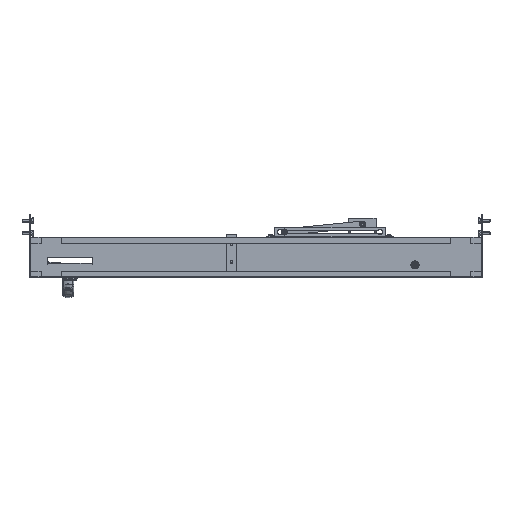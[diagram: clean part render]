
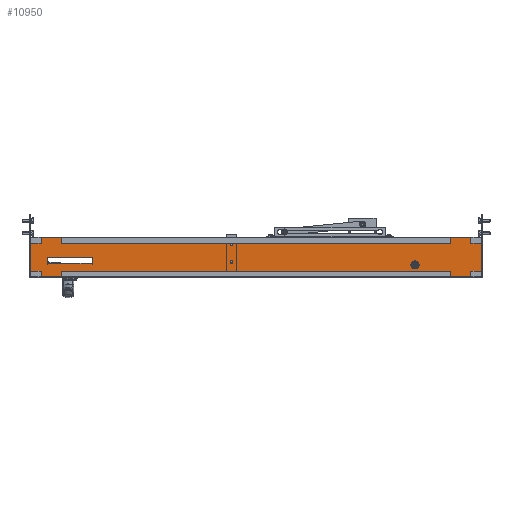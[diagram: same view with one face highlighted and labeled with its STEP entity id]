
A CAD part, front view. The second image highlights one B-rep face of the part: STEP entity #10950.
In plain terms, the highlighted planar face has unit normal (0, -1, 0).
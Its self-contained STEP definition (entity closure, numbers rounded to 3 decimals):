
#9122 = VERTEX_POINT('',#9123);
#9123 = CARTESIAN_POINT('',(-48.5,-1.5,-6.9));
#9141 = VERTEX_POINT('',#9142);
#9142 = CARTESIAN_POINT('',(-48.5,-1.5,-11.1));
#9148 = EDGE_CURVE('',#9122,#9141,#9149,.T.);
#9149 = CIRCLE('',#9150,2.1);
#9150 = AXIS2_PLACEMENT_3D('',#9151,#9152,#9153);
#9151 = CARTESIAN_POINT('',(-48.5,-1.5,-9.));
#9152 = DIRECTION('',(0.,-1.,0.));
#9153 = DIRECTION('',(0.,0.,-1.));
#9164 = VERTEX_POINT('',#9165);
#9165 = CARTESIAN_POINT('',(-48.5,-1.5,28.1));
#9183 = VERTEX_POINT('',#9184);
#9184 = CARTESIAN_POINT('',(-48.5,-1.5,23.9));
#9190 = EDGE_CURVE('',#9164,#9183,#9191,.T.);
#9191 = CIRCLE('',#9192,2.1);
#9192 = AXIS2_PLACEMENT_3D('',#9193,#9194,#9195);
#9193 = CARTESIAN_POINT('',(-48.5,-1.5,26.));
#9194 = DIRECTION('',(0.,-1.,0.));
#9195 = DIRECTION('',(0.,0.,-1.));
#9206 = VERTEX_POINT('',#9207);
#9207 = CARTESIAN_POINT('',(-324.,-1.5,-13.6));
#9215 = EDGE_CURVE('',#9206,#9216,#9218,.T.);
#9216 = VERTEX_POINT('',#9217);
#9217 = CARTESIAN_POINT('',(-323.5,-1.5,-13.6));
#9218 = LINE('',#9219,#9220);
#9219 = CARTESIAN_POINT('',(0.,-1.5,-13.6));
#9220 = VECTOR('',#9221,1.);
#9221 = DIRECTION('',(1.,0.,0.));
#10512 = VERTEX_POINT('',#10513);
#10513 = CARTESIAN_POINT('',(446.4,-1.5,-38.5));
#10519 = EDGE_CURVE('',#10520,#10512,#10522,.T.);
#10520 = VERTEX_POINT('',#10521);
#10521 = CARTESIAN_POINT('',(-446.4,-1.5,-38.5));
#10522 = LINE('',#10523,#10524);
#10523 = CARTESIAN_POINT('',(0.,-1.5,-38.5));
#10524 = VECTOR('',#10525,1.);
#10525 = DIRECTION('',(1.,0.,0.));
#10768 = VERTEX_POINT('',#10769);
#10769 = CARTESIAN_POINT('',(-446.4,-1.5,38.5));
#10775 = EDGE_CURVE('',#10776,#10768,#10778,.T.);
#10776 = VERTEX_POINT('',#10777);
#10777 = CARTESIAN_POINT('',(446.4,-1.5,38.5));
#10778 = LINE('',#10779,#10780);
#10779 = CARTESIAN_POINT('',(0.,-1.5,38.5));
#10780 = VECTOR('',#10781,1.);
#10781 = DIRECTION('',(-1.,0.,0.));
#10867 = EDGE_CURVE('',#10868,#10870,#10872,.T.);
#10868 = VERTEX_POINT('',#10869);
#10869 = CARTESIAN_POINT('',(-446.4,-1.5,-37.9));
#10870 = VERTEX_POINT('',#10871);
#10871 = CARTESIAN_POINT('',(-447.,-1.5,-37.9));
#10872 = LINE('',#10873,#10874);
#10873 = CARTESIAN_POINT('',(0.,-1.5,-37.9));
#10874 = VECTOR('',#10875,1.);
#10875 = DIRECTION('',(-1.,-0.,0.));
#10950 = ADVANCED_FACE('',(#10951,#10961,#10971,#11021,#11078),#11149,
  .T.);
#10951 = FACE_BOUND('',#10952,.T.);
#10952 = EDGE_LOOP('',(#10953,#10954));
#10953 = ORIENTED_EDGE('',*,*,#9148,.F.);
#10954 = ORIENTED_EDGE('',*,*,#10955,.F.);
#10955 = EDGE_CURVE('',#9141,#9122,#10956,.T.);
#10956 = CIRCLE('',#10957,2.1);
#10957 = AXIS2_PLACEMENT_3D('',#10958,#10959,#10960);
#10958 = CARTESIAN_POINT('',(-48.5,-1.5,-9.));
#10959 = DIRECTION('',(0.,-1.,0.));
#10960 = DIRECTION('',(0.,0.,-1.));
#10961 = FACE_BOUND('',#10962,.T.);
#10962 = EDGE_LOOP('',(#10963,#10964));
#10963 = ORIENTED_EDGE('',*,*,#9190,.F.);
#10964 = ORIENTED_EDGE('',*,*,#10965,.F.);
#10965 = EDGE_CURVE('',#9183,#9164,#10966,.T.);
#10966 = CIRCLE('',#10967,2.1);
#10967 = AXIS2_PLACEMENT_3D('',#10968,#10969,#10970);
#10968 = CARTESIAN_POINT('',(-48.5,-1.5,26.));
#10969 = DIRECTION('',(0.,-1.,0.));
#10970 = DIRECTION('',(0.,0.,-1.));
#10971 = FACE_BOUND('',#10972,.T.);
#10972 = EDGE_LOOP('',(#10973,#10983,#10991,#10999,#11007,#11015));
#10973 = ORIENTED_EDGE('',*,*,#10974,.F.);
#10974 = EDGE_CURVE('',#10975,#10977,#10979,.T.);
#10975 = VERTEX_POINT('',#10976);
#10976 = CARTESIAN_POINT('',(317.82,-1.5,-9.25));
#10977 = VERTEX_POINT('',#10978);
#10978 = CARTESIAN_POINT('',(311.18,-1.5,-9.25));
#10979 = LINE('',#10980,#10981);
#10980 = CARTESIAN_POINT('',(0.,-1.5,-9.25));
#10981 = VECTOR('',#10982,1.);
#10982 = DIRECTION('',(-1.,0.,0.));
#10983 = ORIENTED_EDGE('',*,*,#10984,.F.);
#10984 = EDGE_CURVE('',#10985,#10975,#10987,.T.);
#10985 = VERTEX_POINT('',#10986);
#10986 = CARTESIAN_POINT('',(321.14,-1.5,-15.));
#10987 = LINE('',#10988,#10989);
#10988 = CARTESIAN_POINT('',(234.359,-1.5,135.307));
#10989 = VECTOR('',#10990,1.);
#10990 = DIRECTION('',(-0.5,0.,0.866));
#10991 = ORIENTED_EDGE('',*,*,#10992,.F.);
#10992 = EDGE_CURVE('',#10993,#10985,#10995,.T.);
#10993 = VERTEX_POINT('',#10994);
#10994 = CARTESIAN_POINT('',(317.82,-1.5,-20.75));
#10995 = LINE('',#10996,#10997);
#10996 = CARTESIAN_POINT('',(247.35,-1.5,-142.807));
#10997 = VECTOR('',#10998,1.);
#10998 = DIRECTION('',(0.5,0.,0.866));
#10999 = ORIENTED_EDGE('',*,*,#11000,.F.);
#11000 = EDGE_CURVE('',#11001,#10993,#11003,.T.);
#11001 = VERTEX_POINT('',#11002);
#11002 = CARTESIAN_POINT('',(311.18,-1.5,-20.75));
#11003 = LINE('',#11004,#11005);
#11004 = CARTESIAN_POINT('',(0.,-1.5,-20.75));
#11005 = VECTOR('',#11006,1.);
#11006 = DIRECTION('',(1.,0.,0.));
#11007 = ORIENTED_EDGE('',*,*,#11008,.F.);
#11008 = EDGE_CURVE('',#11009,#11001,#11011,.T.);
#11009 = VERTEX_POINT('',#11010);
#11010 = CARTESIAN_POINT('',(307.86,-1.5,-15.));
#11011 = LINE('',#11012,#11013);
#11012 = CARTESIAN_POINT('',(224.4,-1.5,129.557));
#11013 = VECTOR('',#11014,1.);
#11014 = DIRECTION('',(0.5,0.,-0.866));
#11015 = ORIENTED_EDGE('',*,*,#11016,.F.);
#11016 = EDGE_CURVE('',#10977,#11009,#11017,.T.);
#11017 = LINE('',#11018,#11019);
#11018 = CARTESIAN_POINT('',(237.391,-1.5,-137.057));
#11019 = VECTOR('',#11020,1.);
#11020 = DIRECTION('',(-0.5,0.,-0.866));
#11021 = FACE_BOUND('',#11022,.T.);
#11022 = EDGE_LOOP('',(#11023,#11033,#11041,#11047,#11048,#11056,#11064,
    #11072));
#11023 = ORIENTED_EDGE('',*,*,#11024,.F.);
#11024 = EDGE_CURVE('',#11025,#11027,#11029,.T.);
#11025 = VERTEX_POINT('',#11026);
#11026 = CARTESIAN_POINT('',(-413.5,-1.5,0.4));
#11027 = VERTEX_POINT('',#11028);
#11028 = CARTESIAN_POINT('',(-413.5,-1.5,-13.6));
#11029 = LINE('',#11030,#11031);
#11030 = CARTESIAN_POINT('',(-413.5,-1.5,0.));
#11031 = VECTOR('',#11032,1.);
#11032 = DIRECTION('',(0.,0.,-1.));
#11033 = ORIENTED_EDGE('',*,*,#11034,.F.);
#11034 = EDGE_CURVE('',#11035,#11025,#11037,.T.);
#11035 = VERTEX_POINT('',#11036);
#11036 = CARTESIAN_POINT('',(-323.5,-1.5,0.4));
#11037 = LINE('',#11038,#11039);
#11038 = CARTESIAN_POINT('',(0.,-1.5,0.4));
#11039 = VECTOR('',#11040,1.);
#11040 = DIRECTION('',(-1.,0.,0.));
#11041 = ORIENTED_EDGE('',*,*,#11042,.F.);
#11042 = EDGE_CURVE('',#9216,#11035,#11043,.T.);
#11043 = LINE('',#11044,#11045);
#11044 = CARTESIAN_POINT('',(-323.5,-1.5,0.));
#11045 = VECTOR('',#11046,1.);
#11046 = DIRECTION('',(0.,0.,1.));
#11047 = ORIENTED_EDGE('',*,*,#9215,.F.);
#11048 = ORIENTED_EDGE('',*,*,#11049,.T.);
#11049 = EDGE_CURVE('',#9206,#11050,#11052,.T.);
#11050 = VERTEX_POINT('',#11051);
#11051 = CARTESIAN_POINT('',(-324.,-1.5,-13.));
#11052 = LINE('',#11053,#11054);
#11053 = CARTESIAN_POINT('',(-324.,-1.5,-13.6));
#11054 = VECTOR('',#11055,1.);
#11055 = DIRECTION('',(-0.,-0.,1.));
#11056 = ORIENTED_EDGE('',*,*,#11057,.T.);
#11057 = EDGE_CURVE('',#11050,#11058,#11060,.T.);
#11058 = VERTEX_POINT('',#11059);
#11059 = CARTESIAN_POINT('',(-413.,-1.5,-13.));
#11060 = LINE('',#11061,#11062);
#11061 = CARTESIAN_POINT('',(0.,-1.5,-13.));
#11062 = VECTOR('',#11063,1.);
#11063 = DIRECTION('',(-1.,-0.,0.));
#11064 = ORIENTED_EDGE('',*,*,#11065,.F.);
#11065 = EDGE_CURVE('',#11066,#11058,#11068,.T.);
#11066 = VERTEX_POINT('',#11067);
#11067 = CARTESIAN_POINT('',(-413.,-1.5,-13.6));
#11068 = LINE('',#11069,#11070);
#11069 = CARTESIAN_POINT('',(-413.,-1.5,0.));
#11070 = VECTOR('',#11071,1.);
#11071 = DIRECTION('',(-0.,0.,1.));
#11072 = ORIENTED_EDGE('',*,*,#11073,.F.);
#11073 = EDGE_CURVE('',#11027,#11066,#11074,.T.);
#11074 = LINE('',#11075,#11076);
#11075 = CARTESIAN_POINT('',(0.,-1.5,-13.6));
#11076 = VECTOR('',#11077,1.);
#11077 = DIRECTION('',(1.,0.,0.));
#11078 = FACE_BOUND('',#11079,.T.);
#11079 = EDGE_LOOP('',(#11080,#11090,#11096,#11097,#11105,#11113,#11119,
    #11120,#11126,#11127,#11135,#11143));
#11080 = ORIENTED_EDGE('',*,*,#11081,.F.);
#11081 = EDGE_CURVE('',#11082,#11084,#11086,.T.);
#11082 = VERTEX_POINT('',#11083);
#11083 = CARTESIAN_POINT('',(446.4,-1.5,37.9));
#11084 = VERTEX_POINT('',#11085);
#11085 = CARTESIAN_POINT('',(447.,-1.5,37.9));
#11086 = LINE('',#11087,#11088);
#11087 = CARTESIAN_POINT('',(0.,-1.5,37.9));
#11088 = VECTOR('',#11089,1.);
#11089 = DIRECTION('',(1.,-0.,0.));
#11090 = ORIENTED_EDGE('',*,*,#11091,.T.);
#11091 = EDGE_CURVE('',#11082,#10776,#11092,.T.);
#11092 = LINE('',#11093,#11094);
#11093 = CARTESIAN_POINT('',(446.4,-1.5,37.9));
#11094 = VECTOR('',#11095,1.);
#11095 = DIRECTION('',(-0.,-0.,1.));
#11096 = ORIENTED_EDGE('',*,*,#10775,.T.);
#11097 = ORIENTED_EDGE('',*,*,#11098,.F.);
#11098 = EDGE_CURVE('',#11099,#10768,#11101,.T.);
#11099 = VERTEX_POINT('',#11100);
#11100 = CARTESIAN_POINT('',(-446.4,-1.5,37.9));
#11101 = LINE('',#11102,#11103);
#11102 = CARTESIAN_POINT('',(-446.4,-1.5,0.));
#11103 = VECTOR('',#11104,1.);
#11104 = DIRECTION('',(-0.,0.,1.));
#11105 = ORIENTED_EDGE('',*,*,#11106,.T.);
#11106 = EDGE_CURVE('',#11099,#11107,#11109,.T.);
#11107 = VERTEX_POINT('',#11108);
#11108 = CARTESIAN_POINT('',(-447.,-1.5,37.9));
#11109 = LINE('',#11110,#11111);
#11110 = CARTESIAN_POINT('',(-446.4,-1.5,37.9));
#11111 = VECTOR('',#11112,1.);
#11112 = DIRECTION('',(-1.,-0.,0.));
#11113 = ORIENTED_EDGE('',*,*,#11114,.F.);
#11114 = EDGE_CURVE('',#10870,#11107,#11115,.T.);
#11115 = LINE('',#11116,#11117);
#11116 = CARTESIAN_POINT('',(-447.,-1.5,0.));
#11117 = VECTOR('',#11118,1.);
#11118 = DIRECTION('',(0.,0.,1.));
#11119 = ORIENTED_EDGE('',*,*,#10867,.F.);
#11120 = ORIENTED_EDGE('',*,*,#11121,.T.);
#11121 = EDGE_CURVE('',#10868,#10520,#11122,.T.);
#11122 = LINE('',#11123,#11124);
#11123 = CARTESIAN_POINT('',(-446.4,-1.5,-37.9));
#11124 = VECTOR('',#11125,1.);
#11125 = DIRECTION('',(-0.,-0.,-1.));
#11126 = ORIENTED_EDGE('',*,*,#10519,.T.);
#11127 = ORIENTED_EDGE('',*,*,#11128,.F.);
#11128 = EDGE_CURVE('',#11129,#10512,#11131,.T.);
#11129 = VERTEX_POINT('',#11130);
#11130 = CARTESIAN_POINT('',(446.4,-1.5,-37.9));
#11131 = LINE('',#11132,#11133);
#11132 = CARTESIAN_POINT('',(446.4,-1.5,0.));
#11133 = VECTOR('',#11134,1.);
#11134 = DIRECTION('',(0.,0.,-1.));
#11135 = ORIENTED_EDGE('',*,*,#11136,.T.);
#11136 = EDGE_CURVE('',#11129,#11137,#11139,.T.);
#11137 = VERTEX_POINT('',#11138);
#11138 = CARTESIAN_POINT('',(447.,-1.5,-37.9));
#11139 = LINE('',#11140,#11141);
#11140 = CARTESIAN_POINT('',(446.4,-1.5,-37.9));
#11141 = VECTOR('',#11142,1.);
#11142 = DIRECTION('',(1.,-0.,0.));
#11143 = ORIENTED_EDGE('',*,*,#11144,.T.);
#11144 = EDGE_CURVE('',#11137,#11084,#11145,.T.);
#11145 = LINE('',#11146,#11147);
#11146 = CARTESIAN_POINT('',(447.,-1.5,0.));
#11147 = VECTOR('',#11148,1.);
#11148 = DIRECTION('',(0.,-0.,1.));
#11149 = PLANE('',#11150);
#11150 = AXIS2_PLACEMENT_3D('',#11151,#11152,#11153);
#11151 = CARTESIAN_POINT('',(0.,-1.5,0.));
#11152 = DIRECTION('',(0.,-1.,0.));
#11153 = DIRECTION('',(0.,-0.,-1.));
